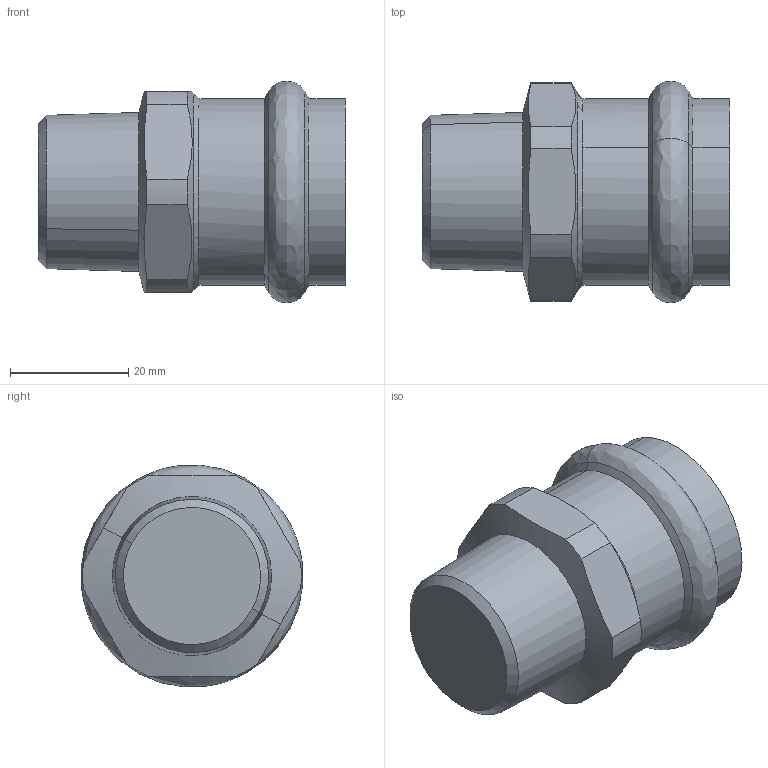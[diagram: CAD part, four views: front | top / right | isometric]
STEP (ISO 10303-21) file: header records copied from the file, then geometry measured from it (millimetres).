
FILE_DESCRIPTION(('STEP AP214'),'1');
FILE_NAME('704218.stp','2020-03-04T07:04:49',('CAD-PIM'),('TransMagic, Inc.'),'TMR12sp2','TransMagic R12',' ');
FILE_SCHEMA(('AUTOMOTIVE_DESIGN'));
Length unit declared in the file: millimetre
Products named in the file (1): 704218
Bounding box: 52 x 37.48 x 37.48 mm (x, y, z)
Volume: 25209.2 mm3; surface area: 9169.3 mm2
Topology: 1 solids, 1 shells, 37 faces, 90 edges, 56 vertices
Faces by surface type: bspline 37
Entity records: 2417 total; most frequent: CARTESIAN_POINT 645, STYLED_ITEM 184, PRESENTATION_STYLE_ASSIGNMENT 184, COLOUR_RGB 184, ORIENTED_EDGE 180, DIRECTION 112, EDGE_CURVE 90, CURVE_STYLE 90
